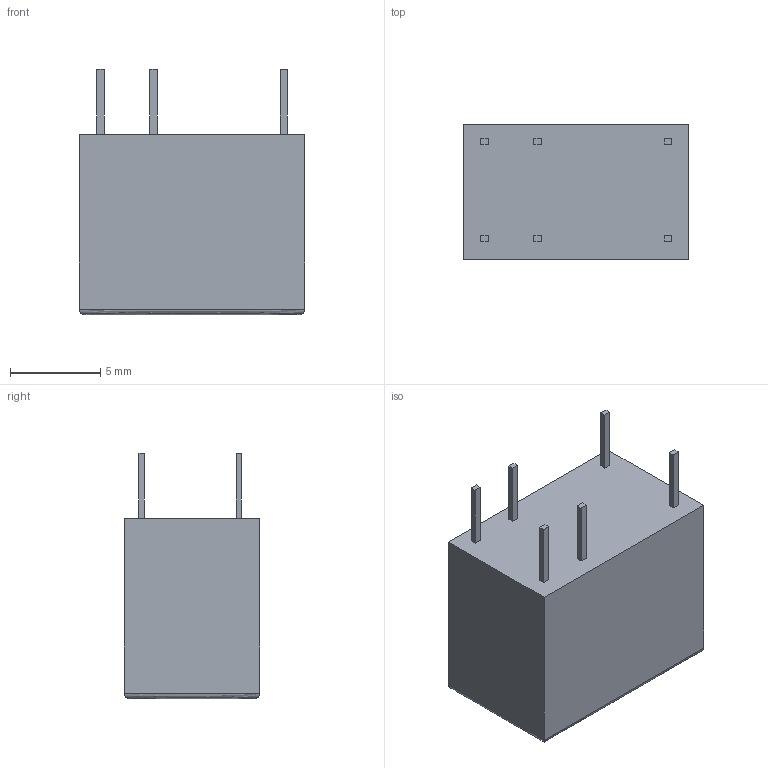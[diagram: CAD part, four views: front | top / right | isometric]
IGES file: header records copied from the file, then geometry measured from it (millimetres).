
Global section: file name: Filename.iges; native system: Open CASCADE 7.3; preprocessor: Open CASCADE IGES processor 7.3; date: 20210427.092050; units: millimetre
Bounding box: 12.5 x 7.5 x 13.6 mm (x, y, z)
Surface area: 612.5 mm2 (no closed solid volume)
Topology: 0 solids, 0 shells, 40 faces, 184 edges, 184 vertices
Faces by surface type: plane 36, revolution 4
